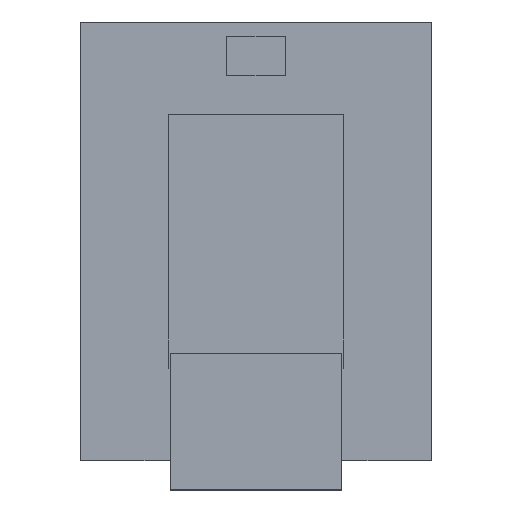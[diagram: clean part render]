
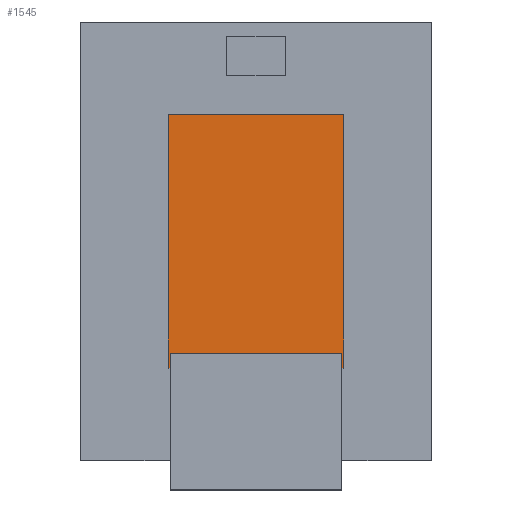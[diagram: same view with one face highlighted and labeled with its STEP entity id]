
A CAD part, top view. The second image highlights one B-rep face of the part: STEP entity #1545.
In plain terms, the highlighted planar face has unit normal (0, 0, 1).
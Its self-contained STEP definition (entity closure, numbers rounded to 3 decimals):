
#327 = PLANE('',#328);
#328 = AXIS2_PLACEMENT_3D('',#329,#330,#331);
#329 = CARTESIAN_POINT('',(-29.4,-12.75,49.4));
#330 = DIRECTION('',(1.,0.,0.));
#331 = DIRECTION('',(0.,0.,1.));
#355 = PLANE('',#356);
#356 = AXIS2_PLACEMENT_3D('',#357,#358,#359);
#357 = CARTESIAN_POINT('',(-29.5,-6.5,49.4));
#358 = DIRECTION('',(0.,1.,0.));
#359 = DIRECTION('',(0.,0.,1.));
#383 = PLANE('',#384);
#384 = AXIS2_PLACEMENT_3D('',#385,#386,#387);
#385 = CARTESIAN_POINT('',(-29.5,-6.5,49.4));
#386 = DIRECTION('',(1.,0.,0.));
#387 = DIRECTION('',(0.,0.,1.));
#411 = PLANE('',#412);
#412 = AXIS2_PLACEMENT_3D('',#413,#414,#415);
#413 = CARTESIAN_POINT('',(-29.5,6.5,49.4));
#414 = DIRECTION('',(0.,1.,0.));
#415 = DIRECTION('',(0.,0.,1.));
#439 = PLANE('',#440);
#440 = AXIS2_PLACEMENT_3D('',#441,#442,#443);
#441 = CARTESIAN_POINT('',(-20.5,-6.5,49.4));
#442 = DIRECTION('',(1.,0.,0.));
#443 = DIRECTION('',(0.,0.,1.));
#467 = PLANE('',#468);
#468 = AXIS2_PLACEMENT_3D('',#469,#470,#471);
#469 = CARTESIAN_POINT('',(-29.5,-6.5,49.4));
#470 = DIRECTION('',(0.,1.,0.));
#471 = DIRECTION('',(0.,0.,1.));
#493 = PLANE('',#494);
#494 = AXIS2_PLACEMENT_3D('',#495,#496,#497);
#495 = CARTESIAN_POINT('',(-20.6,-12.75,49.4));
#496 = DIRECTION('',(1.,0.,0.));
#497 = DIRECTION('',(0.,0.,1.));
#857 = VERTEX_POINT('',#858);
#858 = CARTESIAN_POINT('',(-20.6,-6.5,51.4));
#877 = EDGE_CURVE('',#857,#878,#880,.T.);
#878 = VERTEX_POINT('',#879);
#879 = CARTESIAN_POINT('',(-20.6,-5.75,51.4));
#880 = SURFACE_CURVE('',#881,(#885,#891),.PCURVE_S1.);
#881 = LINE('',#882,#883);
#882 = CARTESIAN_POINT('',(-20.6,-9.625,51.4));
#883 = VECTOR('',#884,1.);
#884 = DIRECTION('',(0.,1.,0.));
#885 = PCURVE('',#493,#886);
#886 = DEFINITIONAL_REPRESENTATION('',(#887),#890);
#887 = B_SPLINE_CURVE_WITH_KNOTS('',1,(#888,#889),.UNSPECIFIED.,.F.,.F.,
  (2,2),(3.125,3.875),.PIECEWISE_BEZIER_KNOTS.);
#888 = CARTESIAN_POINT('',(2.,-6.25));
#889 = CARTESIAN_POINT('',(2.,-7.));
#890 = ( GEOMETRIC_REPRESENTATION_CONTEXT(2) 
PARAMETRIC_REPRESENTATION_CONTEXT() REPRESENTATION_CONTEXT('2D SPACE',''
  ) );
#891 = PCURVE('',#892,#897);
#892 = PLANE('',#893);
#893 = AXIS2_PLACEMENT_3D('',#894,#895,#896);
#894 = CARTESIAN_POINT('',(-29.5,-6.5,51.4));
#895 = DIRECTION('',(0.,0.,1.));
#896 = DIRECTION('',(1.,0.,0.));
#897 = DEFINITIONAL_REPRESENTATION('',(#898),#901);
#898 = B_SPLINE_CURVE_WITH_KNOTS('',1,(#899,#900),.UNSPECIFIED.,.F.,.F.,
  (2,2),(3.125,3.875),.PIECEWISE_BEZIER_KNOTS.);
#899 = CARTESIAN_POINT('',(8.9,0.));
#900 = CARTESIAN_POINT('',(8.9,0.75));
#901 = ( GEOMETRIC_REPRESENTATION_CONTEXT(2) 
PARAMETRIC_REPRESENTATION_CONTEXT() REPRESENTATION_CONTEXT('2D SPACE',''
  ) );
#917 = PLANE('',#918);
#918 = AXIS2_PLACEMENT_3D('',#919,#920,#921);
#919 = CARTESIAN_POINT('',(-29.4,-5.75,49.4));
#920 = DIRECTION('',(0.,1.,0.));
#921 = DIRECTION('',(0.,0.,1.));
#981 = VERTEX_POINT('',#982);
#982 = CARTESIAN_POINT('',(-29.4,-6.5,51.4));
#1001 = EDGE_CURVE('',#981,#1002,#1004,.T.);
#1002 = VERTEX_POINT('',#1003);
#1003 = CARTESIAN_POINT('',(-29.4,-5.75,51.4));
#1004 = SURFACE_CURVE('',#1005,(#1009,#1015),.PCURVE_S1.);
#1005 = LINE('',#1006,#1007);
#1006 = CARTESIAN_POINT('',(-29.4,-9.625,51.4));
#1007 = VECTOR('',#1008,1.);
#1008 = DIRECTION('',(0.,1.,0.));
#1009 = PCURVE('',#327,#1010);
#1010 = DEFINITIONAL_REPRESENTATION('',(#1011),#1014);
#1011 = B_SPLINE_CURVE_WITH_KNOTS('',1,(#1012,#1013),.UNSPECIFIED.,.F.,
  .F.,(2,2),(3.125,3.875),.PIECEWISE_BEZIER_KNOTS.);
#1012 = CARTESIAN_POINT('',(2.,-6.25));
#1013 = CARTESIAN_POINT('',(2.,-7.));
#1014 = ( GEOMETRIC_REPRESENTATION_CONTEXT(2) 
PARAMETRIC_REPRESENTATION_CONTEXT() REPRESENTATION_CONTEXT('2D SPACE',''
  ) );
#1015 = PCURVE('',#892,#1016);
#1016 = DEFINITIONAL_REPRESENTATION('',(#1017),#1020);
#1017 = B_SPLINE_CURVE_WITH_KNOTS('',1,(#1018,#1019),.UNSPECIFIED.,.F.,
  .F.,(2,2),(3.125,3.875),.PIECEWISE_BEZIER_KNOTS.);
#1018 = CARTESIAN_POINT('',(0.1,0.));
#1019 = CARTESIAN_POINT('',(0.1,0.75));
#1020 = ( GEOMETRIC_REPRESENTATION_CONTEXT(2) 
PARAMETRIC_REPRESENTATION_CONTEXT() REPRESENTATION_CONTEXT('2D SPACE',''
  ) );
#1048 = EDGE_CURVE('',#857,#1049,#1051,.T.);
#1049 = VERTEX_POINT('',#1050);
#1050 = CARTESIAN_POINT('',(-20.5,-6.5,51.4));
#1051 = SURFACE_CURVE('',#1052,(#1056,#1063),.PCURVE_S1.);
#1052 = LINE('',#1053,#1054);
#1053 = CARTESIAN_POINT('',(-29.5,-6.5,51.4));
#1054 = VECTOR('',#1055,1.);
#1055 = DIRECTION('',(1.,0.,0.));
#1056 = PCURVE('',#467,#1057);
#1057 = DEFINITIONAL_REPRESENTATION('',(#1058),#1062);
#1058 = LINE('',#1059,#1060);
#1059 = CARTESIAN_POINT('',(2.,0.));
#1060 = VECTOR('',#1061,1.);
#1061 = DIRECTION('',(0.,1.));
#1062 = ( GEOMETRIC_REPRESENTATION_CONTEXT(2) 
PARAMETRIC_REPRESENTATION_CONTEXT() REPRESENTATION_CONTEXT('2D SPACE',''
  ) );
#1063 = PCURVE('',#892,#1064);
#1064 = DEFINITIONAL_REPRESENTATION('',(#1065),#1069);
#1065 = LINE('',#1066,#1067);
#1066 = CARTESIAN_POINT('',(0.,0.));
#1067 = VECTOR('',#1068,1.);
#1068 = DIRECTION('',(1.,0.));
#1069 = ( GEOMETRIC_REPRESENTATION_CONTEXT(2) 
PARAMETRIC_REPRESENTATION_CONTEXT() REPRESENTATION_CONTEXT('2D SPACE',''
  ) );
#1097 = VERTEX_POINT('',#1098);
#1098 = CARTESIAN_POINT('',(-29.5,-6.5,51.4));
#1119 = EDGE_CURVE('',#1097,#981,#1120,.T.);
#1120 = SURFACE_CURVE('',#1121,(#1125,#1132),.PCURVE_S1.);
#1121 = LINE('',#1122,#1123);
#1122 = CARTESIAN_POINT('',(-29.5,-6.5,51.4));
#1123 = VECTOR('',#1124,1.);
#1124 = DIRECTION('',(1.,0.,0.));
#1125 = PCURVE('',#355,#1126);
#1126 = DEFINITIONAL_REPRESENTATION('',(#1127),#1131);
#1127 = LINE('',#1128,#1129);
#1128 = CARTESIAN_POINT('',(2.,0.));
#1129 = VECTOR('',#1130,1.);
#1130 = DIRECTION('',(0.,1.));
#1131 = ( GEOMETRIC_REPRESENTATION_CONTEXT(2) 
PARAMETRIC_REPRESENTATION_CONTEXT() REPRESENTATION_CONTEXT('2D SPACE',''
  ) );
#1132 = PCURVE('',#892,#1133);
#1133 = DEFINITIONAL_REPRESENTATION('',(#1134),#1138);
#1134 = LINE('',#1135,#1136);
#1135 = CARTESIAN_POINT('',(0.,0.));
#1136 = VECTOR('',#1137,1.);
#1137 = DIRECTION('',(1.,0.));
#1138 = ( GEOMETRIC_REPRESENTATION_CONTEXT(2) 
PARAMETRIC_REPRESENTATION_CONTEXT() REPRESENTATION_CONTEXT('2D SPACE',''
  ) );
#1147 = VERTEX_POINT('',#1148);
#1148 = CARTESIAN_POINT('',(-20.5,6.5,51.4));
#1169 = EDGE_CURVE('',#1049,#1147,#1170,.T.);
#1170 = SURFACE_CURVE('',#1171,(#1175,#1182),.PCURVE_S1.);
#1171 = LINE('',#1172,#1173);
#1172 = CARTESIAN_POINT('',(-20.5,-6.5,51.4));
#1173 = VECTOR('',#1174,1.);
#1174 = DIRECTION('',(0.,1.,0.));
#1175 = PCURVE('',#439,#1176);
#1176 = DEFINITIONAL_REPRESENTATION('',(#1177),#1181);
#1177 = LINE('',#1178,#1179);
#1178 = CARTESIAN_POINT('',(2.,0.));
#1179 = VECTOR('',#1180,1.);
#1180 = DIRECTION('',(0.,-1.));
#1181 = ( GEOMETRIC_REPRESENTATION_CONTEXT(2) 
PARAMETRIC_REPRESENTATION_CONTEXT() REPRESENTATION_CONTEXT('2D SPACE',''
  ) );
#1182 = PCURVE('',#892,#1183);
#1183 = DEFINITIONAL_REPRESENTATION('',(#1184),#1188);
#1184 = LINE('',#1185,#1186);
#1185 = CARTESIAN_POINT('',(9.,0.));
#1186 = VECTOR('',#1187,1.);
#1187 = DIRECTION('',(0.,1.));
#1188 = ( GEOMETRIC_REPRESENTATION_CONTEXT(2) 
PARAMETRIC_REPRESENTATION_CONTEXT() REPRESENTATION_CONTEXT('2D SPACE',''
  ) );
#1196 = VERTEX_POINT('',#1197);
#1197 = CARTESIAN_POINT('',(-29.5,6.5,51.4));
#1218 = EDGE_CURVE('',#1097,#1196,#1219,.T.);
#1219 = SURFACE_CURVE('',#1220,(#1224,#1231),.PCURVE_S1.);
#1220 = LINE('',#1221,#1222);
#1221 = CARTESIAN_POINT('',(-29.5,-6.5,51.4));
#1222 = VECTOR('',#1223,1.);
#1223 = DIRECTION('',(0.,1.,0.));
#1224 = PCURVE('',#383,#1225);
#1225 = DEFINITIONAL_REPRESENTATION('',(#1226),#1230);
#1226 = LINE('',#1227,#1228);
#1227 = CARTESIAN_POINT('',(2.,0.));
#1228 = VECTOR('',#1229,1.);
#1229 = DIRECTION('',(0.,-1.));
#1230 = ( GEOMETRIC_REPRESENTATION_CONTEXT(2) 
PARAMETRIC_REPRESENTATION_CONTEXT() REPRESENTATION_CONTEXT('2D SPACE',''
  ) );
#1231 = PCURVE('',#892,#1232);
#1232 = DEFINITIONAL_REPRESENTATION('',(#1233),#1237);
#1233 = LINE('',#1234,#1235);
#1234 = CARTESIAN_POINT('',(0.,0.));
#1235 = VECTOR('',#1236,1.);
#1236 = DIRECTION('',(0.,1.));
#1237 = ( GEOMETRIC_REPRESENTATION_CONTEXT(2) 
PARAMETRIC_REPRESENTATION_CONTEXT() REPRESENTATION_CONTEXT('2D SPACE',''
  ) );
#1244 = EDGE_CURVE('',#1196,#1147,#1245,.T.);
#1245 = SURFACE_CURVE('',#1246,(#1250,#1257),.PCURVE_S1.);
#1246 = LINE('',#1247,#1248);
#1247 = CARTESIAN_POINT('',(-29.5,6.5,51.4));
#1248 = VECTOR('',#1249,1.);
#1249 = DIRECTION('',(1.,0.,0.));
#1250 = PCURVE('',#411,#1251);
#1251 = DEFINITIONAL_REPRESENTATION('',(#1252),#1256);
#1252 = LINE('',#1253,#1254);
#1253 = CARTESIAN_POINT('',(2.,0.));
#1254 = VECTOR('',#1255,1.);
#1255 = DIRECTION('',(0.,1.));
#1256 = ( GEOMETRIC_REPRESENTATION_CONTEXT(2) 
PARAMETRIC_REPRESENTATION_CONTEXT() REPRESENTATION_CONTEXT('2D SPACE',''
  ) );
#1257 = PCURVE('',#892,#1258);
#1258 = DEFINITIONAL_REPRESENTATION('',(#1259),#1263);
#1259 = LINE('',#1260,#1261);
#1260 = CARTESIAN_POINT('',(0.,13.));
#1261 = VECTOR('',#1262,1.);
#1262 = DIRECTION('',(1.,0.));
#1263 = ( GEOMETRIC_REPRESENTATION_CONTEXT(2) 
PARAMETRIC_REPRESENTATION_CONTEXT() REPRESENTATION_CONTEXT('2D SPACE',''
  ) );
#1525 = EDGE_CURVE('',#878,#1002,#1526,.T.);
#1526 = SURFACE_CURVE('',#1527,(#1531,#1537),.PCURVE_S1.);
#1527 = LINE('',#1528,#1529);
#1528 = CARTESIAN_POINT('',(-29.45,-5.75,51.4));
#1529 = VECTOR('',#1530,1.);
#1530 = DIRECTION('',(-1.,0.,0.));
#1531 = PCURVE('',#917,#1532);
#1532 = DEFINITIONAL_REPRESENTATION('',(#1533),#1536);
#1533 = B_SPLINE_CURVE_WITH_KNOTS('',1,(#1534,#1535),.UNSPECIFIED.,.F.,
  .F.,(2,2),(-8.85,-0.05),.PIECEWISE_BEZIER_KNOTS.);
#1534 = CARTESIAN_POINT('',(2.,8.8));
#1535 = CARTESIAN_POINT('',(2.,0.));
#1536 = ( GEOMETRIC_REPRESENTATION_CONTEXT(2) 
PARAMETRIC_REPRESENTATION_CONTEXT() REPRESENTATION_CONTEXT('2D SPACE',''
  ) );
#1537 = PCURVE('',#892,#1538);
#1538 = DEFINITIONAL_REPRESENTATION('',(#1539),#1542);
#1539 = B_SPLINE_CURVE_WITH_KNOTS('',1,(#1540,#1541),.UNSPECIFIED.,.F.,
  .F.,(2,2),(-8.85,-0.05),.PIECEWISE_BEZIER_KNOTS.);
#1540 = CARTESIAN_POINT('',(8.9,0.75));
#1541 = CARTESIAN_POINT('',(0.1,0.75));
#1542 = ( GEOMETRIC_REPRESENTATION_CONTEXT(2) 
PARAMETRIC_REPRESENTATION_CONTEXT() REPRESENTATION_CONTEXT('2D SPACE',''
  ) );
#1545 = ADVANCED_FACE('',(#1546),#892,.T.);
#1546 = FACE_BOUND('',#1547,.T.);
#1547 = EDGE_LOOP('',(#1548,#1549,#1550,#1551,#1552,#1553,#1554,#1555));
#1548 = ORIENTED_EDGE('',*,*,#1244,.F.);
#1549 = ORIENTED_EDGE('',*,*,#1218,.F.);
#1550 = ORIENTED_EDGE('',*,*,#1119,.T.);
#1551 = ORIENTED_EDGE('',*,*,#1001,.T.);
#1552 = ORIENTED_EDGE('',*,*,#1525,.F.);
#1553 = ORIENTED_EDGE('',*,*,#877,.F.);
#1554 = ORIENTED_EDGE('',*,*,#1048,.T.);
#1555 = ORIENTED_EDGE('',*,*,#1169,.T.);
